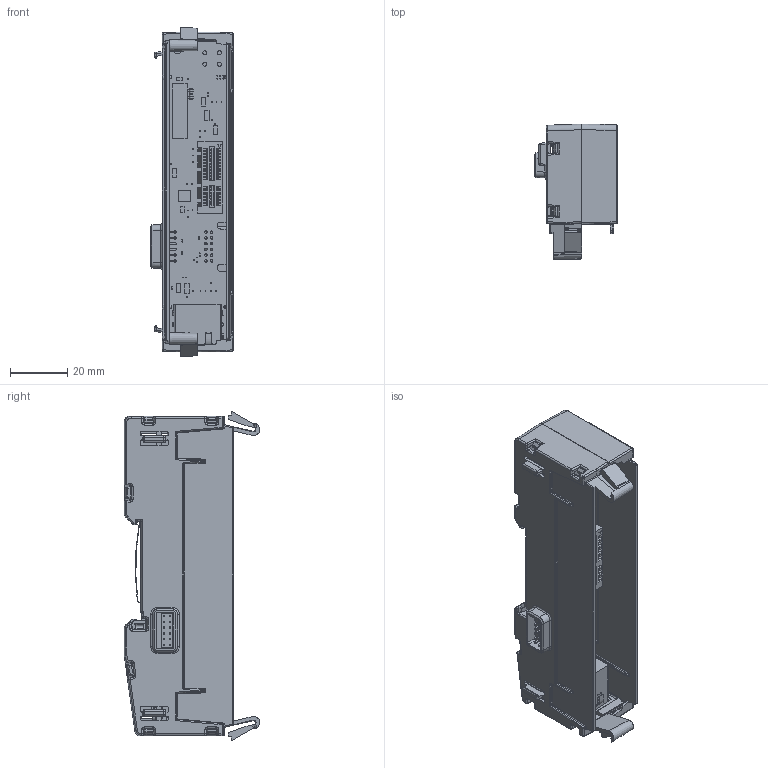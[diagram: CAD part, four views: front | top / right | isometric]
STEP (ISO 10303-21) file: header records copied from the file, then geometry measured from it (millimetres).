
FILE_DESCRIPTION(/* description */ (''),/* implementation_level */ '2;1');
FILE_NAME(/* name */ 'C:\Users\shoma\OneDrive - Brodersen\Project\3D Files\New Design\Backplane\BB21C\BB21C.stp',/* time_stamp */ '2024-10-12T22:01:52+02:00',/* author */ ('shoma'),/* organization */ (''),/* preprocessor_version */ 'ST-DEVELOPER v19',/* originating_system */ 'Autodesk Inventor 2023',/* authorisation */ '');
FILE_SCHEMA (('AUTOMOTIVE_DESIGN { 1 0 10303 214 3 1 1 }'));
Products named in the file (1): BB21C
Bounding box: 28.9 x 47.2 x 114.57 mm (x, y, z)
Volume: 25442.6 mm3; surface area: 38501 mm2
Topology: 8 solids, 10 shells, 4784 faces, 13335 edges, 8383 vertices
Faces by surface type: plane 2841, cylinder 1439, bspline 328, sphere 140, torus 20, cone 16
Full cylindrical faces by diameter (mm): 0.3 x36, 0.7 x36, 0.8 x6, 0.85 x24, 0.9 x8, 1.29 x1, 1.4 x4, 1.6 x2, 1.981 x1, 2.35 x2, 3 x1, 3.25 x2
Entity records: 168653 total; most frequent: CARTESIAN_POINT 40526, ORIENTED_EDGE 26422, DIRECTION 24885, EDGE_CURVE 13211, LINE 9497, VECTOR 9497, VERTEX_POINT 8383, AXIS2_PLACEMENT_3D 7694
